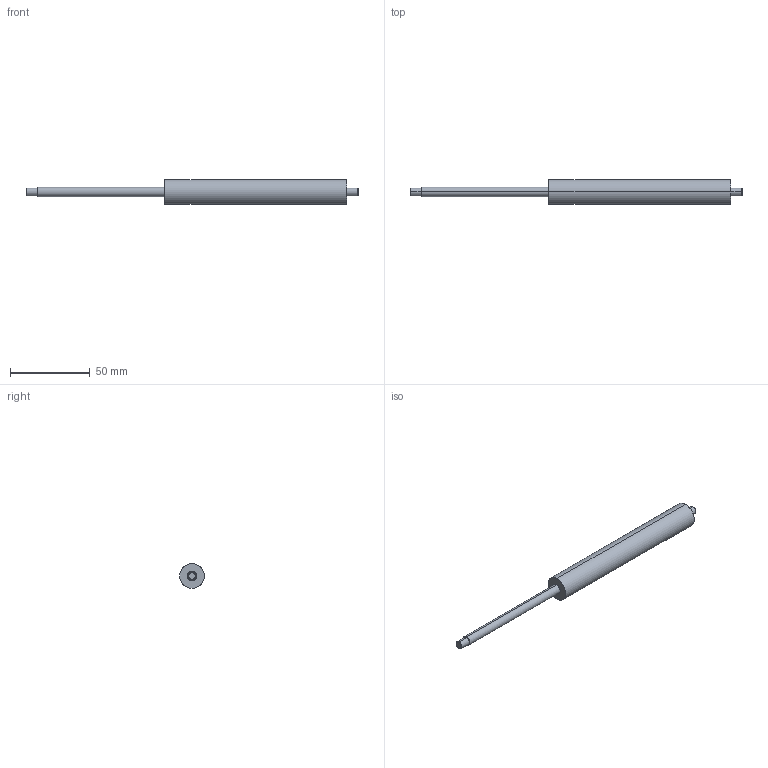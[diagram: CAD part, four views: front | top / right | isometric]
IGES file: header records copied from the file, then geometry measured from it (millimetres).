
Start section: SolidWorks IGES file using analytic representation for surfaces
Bounding box: 208 x 15.6 x 15.6 mm (x, y, z)
Surface area: 7689.4 mm2 (no closed solid volume)
Topology: 0 solids, 0 shells, 17 faces, 304 edges, 304 vertices
Faces by surface type: revolution 12, bspline 5
